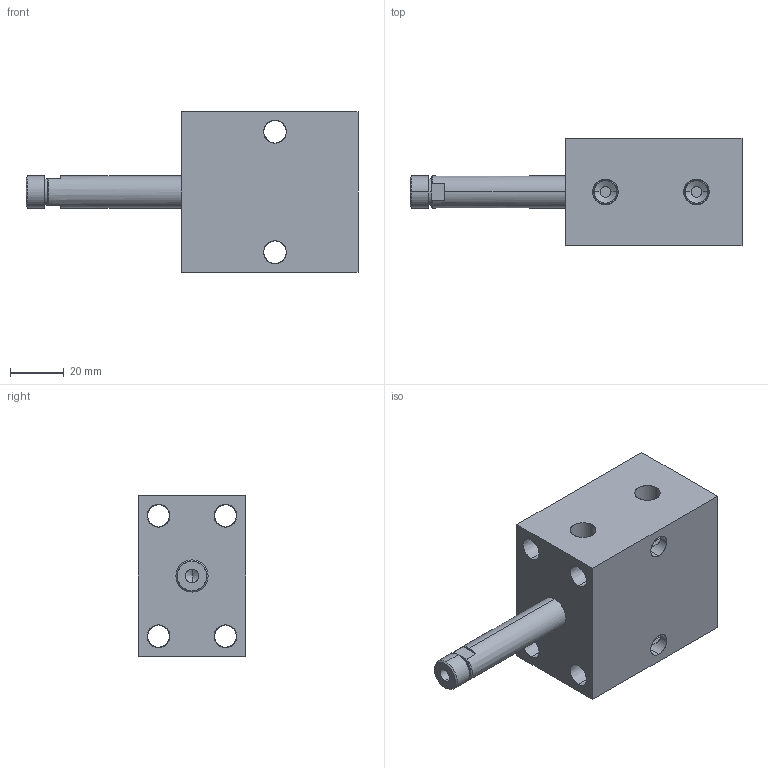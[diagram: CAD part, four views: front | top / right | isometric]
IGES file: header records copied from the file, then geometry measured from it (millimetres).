
Start section: SolidWorks IGES file using analytic representation for surfaces
Global section: file name: C:\Documents and Settings\rajib\Desktop\Rajib\BLOCK CYLINDER HYDRAULIC\0101-0106\0106.IGS; native system: SolidWorks 2007; preprocessor: SolidWorks 2007; author: rajib; date: 110121.093355; units: millimetre
Bounding box: 124 x 40 x 60 mm (x, y, z)
Surface area: 28969.3 mm2 (no closed solid volume)
Topology: 0 solids, 0 shells, 80 faces, 1748 edges, 1746 vertices
Faces by surface type: revolution 60, bspline 20
